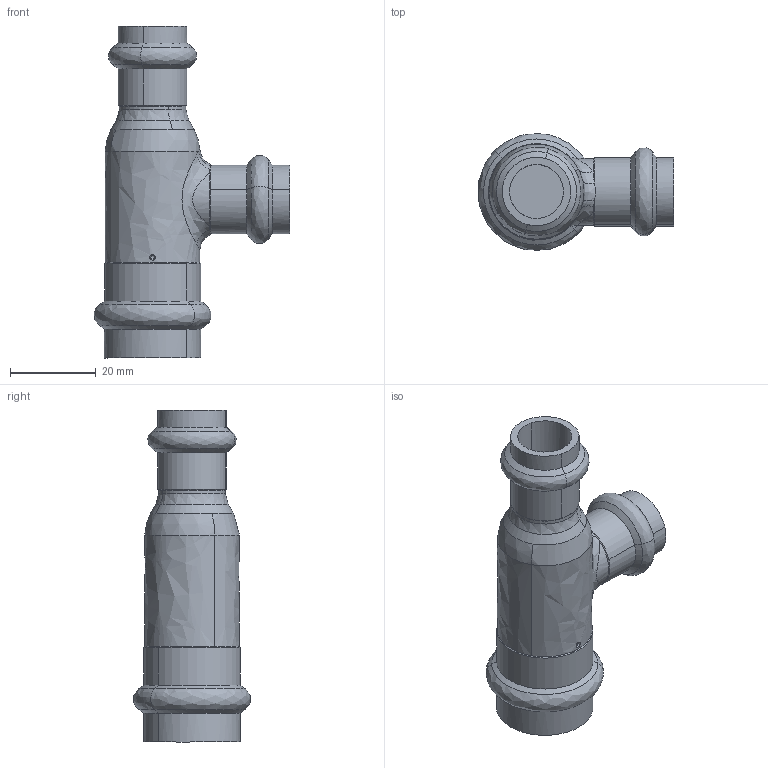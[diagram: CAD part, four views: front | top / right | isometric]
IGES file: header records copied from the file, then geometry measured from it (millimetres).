
Start section: 3D InterOp IGES (Version 25 0 1), Spatial Corp. Copyright (c) 1999-2007.
Global section: file name: pim0004515.igs; native system: Spatial Corp.; preprocessor: 3D InterOp ACIS/IGES; author: Cad-Pim; organization: TransMagic, Inc.; date: 20150430.083710; units: millimetre
Bounding box: 45.58 x 27.17 x 77.5 mm (x, y, z)
Volume: 21211.3 mm3; surface area: 10006.8 mm2
Topology: 1 solids, 1 shells, 73 faces, 197 edges, 131 vertices
Faces by surface type: bspline 33, cylinder 21, cone 19
